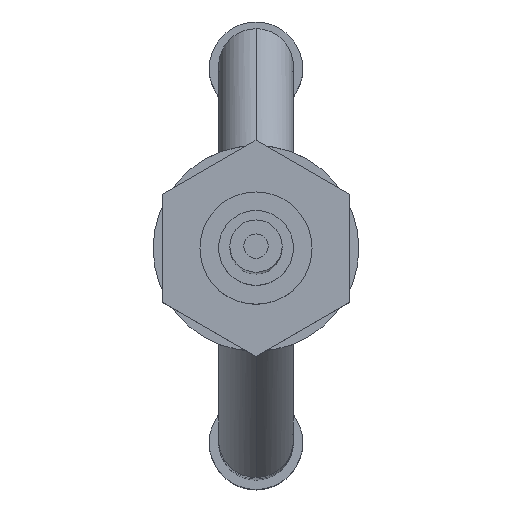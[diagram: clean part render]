
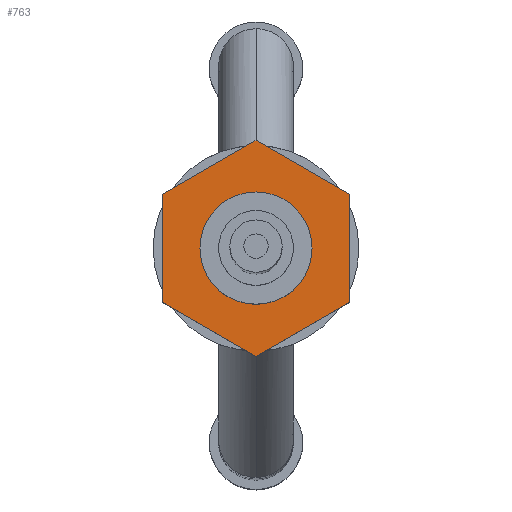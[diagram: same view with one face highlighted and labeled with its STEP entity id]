
A CAD part, top view. The second image highlights one B-rep face of the part: STEP entity #763.
In plain terms, the highlighted planar face has unit normal (0, 0, 1) as drawn and (-1, 0, 0) by its records, which use the part's own axes.
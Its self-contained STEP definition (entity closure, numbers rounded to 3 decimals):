
#752 = ORIENTED_EDGE ( 'NONE', *, *, #753, .T. ) ;
#753 = EDGE_CURVE ( 'NONE', #831, #767, #2147, .T. ) ;
#754 = VERTEX_POINT ( 'NONE', #2143 ) ;
#763 = ADVANCED_FACE ( 'NONE', ( #2127, #2126 ), #2125, .F. ) ;
#764 = EDGE_LOOP ( 'NONE', ( #765, #820, #823, #826, #829, #752 ) ) ;
#765 = ORIENTED_EDGE ( 'NONE', *, *, #766, .T. ) ;
#766 = EDGE_CURVE ( 'NONE', #767, #768, #2120, .T. ) ;
#767 = VERTEX_POINT ( 'NONE', #2184 ) ;
#768 = VERTEX_POINT ( 'NONE', #2183 ) ;
#782 = EDGE_CURVE ( 'NONE', #783, #754, #2169, .T. ) ;
#783 = VERTEX_POINT ( 'NONE', #2165 ) ;
#804 = EDGE_LOOP ( 'NONE', ( #805, #806 ) ) ;
#805 = ORIENTED_EDGE ( 'NONE', *, *, #782, .F. ) ;
#806 = ORIENTED_EDGE ( 'NONE', *, *, #807, .F. ) ;
#807 = EDGE_CURVE ( 'NONE', #754, #783, #2192, .T. ) ;
#820 = ORIENTED_EDGE ( 'NONE', *, *, #821, .T. ) ;
#821 = EDGE_CURVE ( 'NONE', #768, #822, #2231, .T. ) ;
#822 = VERTEX_POINT ( 'NONE', #2227 ) ;
#823 = ORIENTED_EDGE ( 'NONE', *, *, #824, .T. ) ;
#824 = EDGE_CURVE ( 'NONE', #822, #825, #2226, .T. ) ;
#825 = VERTEX_POINT ( 'NONE', #2222 ) ;
#826 = ORIENTED_EDGE ( 'NONE', *, *, #827, .T. ) ;
#827 = EDGE_CURVE ( 'NONE', #825, #828, #2221, .T. ) ;
#828 = VERTEX_POINT ( 'NONE', #2282 ) ;
#829 = ORIENTED_EDGE ( 'NONE', *, *, #830, .T. ) ;
#830 = EDGE_CURVE ( 'NONE', #828, #831, #2281, .T. ) ;
#831 = VERTEX_POINT ( 'NONE', #2277 ) ;
#2117 = DIRECTION ( 'NONE',  ( 0., 0.5, -0.866 ) ) ;
#2118 = VECTOR ( 'NONE', #2117, 1000. ) ;
#2119 = CARTESIAN_POINT ( 'NONE',  ( 11., 2.887, 5. ) ) ;
#2120 = LINE ( 'NONE', #2119, #2118 ) ;
#2121 = DIRECTION ( 'NONE',  ( 0., 1., 0. ) ) ;
#2122 = DIRECTION ( 'NONE',  ( 1., 0., 0. ) ) ;
#2123 = CARTESIAN_POINT ( 'NONE',  ( 11., 0., 10. ) ) ;
#2124 = AXIS2_PLACEMENT_3D ( 'NONE', #2123, #2122, #2121 ) ;
#2125 = PLANE ( 'NONE',  #2124 ) ;
#2126 = FACE_BOUND ( 'NONE', #804, .T. ) ;
#2127 = FACE_OUTER_BOUND ( 'NONE', #764, .T. ) ;
#2143 = CARTESIAN_POINT ( 'NONE',  ( 11., -3., 0. ) ) ;
#2144 = DIRECTION ( 'NONE',  ( 0., 1., 0. ) ) ;
#2145 = VECTOR ( 'NONE', #2144, 1000. ) ;
#2146 = CARTESIAN_POINT ( 'NONE',  ( 11., -2.887, 5. ) ) ;
#2147 = LINE ( 'NONE', #2146, #2145 ) ;
#2165 = CARTESIAN_POINT ( 'NONE',  ( 11., 3., 0. ) ) ;
#2166 = DIRECTION ( 'NONE',  ( 0., -1., 0. ) ) ;
#2167 = DIRECTION ( 'NONE',  ( -1., 0., 0. ) ) ;
#2168 = AXIS2_PLACEMENT_3D ( 'NONE', #2174, #2167, #2166 ) ;
#2169 = CIRCLE ( 'NONE', #2168, 3. ) ;
#2174 = CARTESIAN_POINT ( 'NONE',  ( 11., 0., 0. ) ) ;
#2183 = CARTESIAN_POINT ( 'NONE',  ( 11., 5.774, 0. ) ) ;
#2184 = CARTESIAN_POINT ( 'NONE',  ( 11., 2.887, 5. ) ) ;
#2188 = DIRECTION ( 'NONE',  ( 0., -1., 0. ) ) ;
#2189 = DIRECTION ( 'NONE',  ( -1., 0., 0. ) ) ;
#2190 = CARTESIAN_POINT ( 'NONE',  ( 11., 0., 0. ) ) ;
#2191 = AXIS2_PLACEMENT_3D ( 'NONE', #2190, #2189, #2188 ) ;
#2192 = CIRCLE ( 'NONE', #2191, 3. ) ;
#2218 = DIRECTION ( 'NONE',  ( 0., -0.5, 0.866 ) ) ;
#2219 = VECTOR ( 'NONE', #2218, 1000. ) ;
#2220 = CARTESIAN_POINT ( 'NONE',  ( 11., -2.887, -5. ) ) ;
#2221 = LINE ( 'NONE', #2220, #2219 ) ;
#2222 = CARTESIAN_POINT ( 'NONE',  ( 11., -2.887, -5. ) ) ;
#2223 = DIRECTION ( 'NONE',  ( 0., -1., 0. ) ) ;
#2224 = VECTOR ( 'NONE', #2223, 1000. ) ;
#2225 = CARTESIAN_POINT ( 'NONE',  ( 11., 2.887, -5. ) ) ;
#2226 = LINE ( 'NONE', #2225, #2224 ) ;
#2227 = CARTESIAN_POINT ( 'NONE',  ( 11., 2.887, -5. ) ) ;
#2228 = DIRECTION ( 'NONE',  ( 0., -0.5, -0.866 ) ) ;
#2229 = VECTOR ( 'NONE', #2228, 1000. ) ;
#2230 = CARTESIAN_POINT ( 'NONE',  ( 11., 5.774, 0. ) ) ;
#2231 = LINE ( 'NONE', #2230, #2229 ) ;
#2277 = CARTESIAN_POINT ( 'NONE',  ( 11., -2.887, 5. ) ) ;
#2278 = DIRECTION ( 'NONE',  ( 0., 0.5, 0.866 ) ) ;
#2279 = VECTOR ( 'NONE', #2278, 1000. ) ;
#2280 = CARTESIAN_POINT ( 'NONE',  ( 11., -5.774, 0. ) ) ;
#2281 = LINE ( 'NONE', #2280, #2279 ) ;
#2282 = CARTESIAN_POINT ( 'NONE',  ( 11., -5.774, 0. ) ) ;
